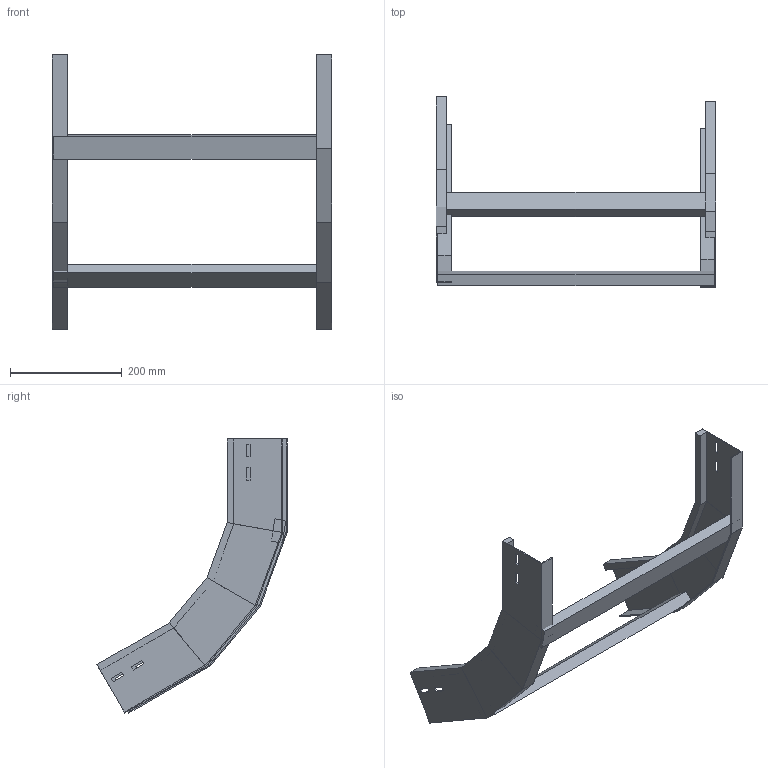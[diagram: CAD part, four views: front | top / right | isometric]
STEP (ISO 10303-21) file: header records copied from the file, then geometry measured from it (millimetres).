
FILE_DESCRIPTION (( 'STEP AP214' ), '1' );
FILE_NAME ('A2X40B3D500XX.step', '2025-04-02T09:45:23', ( '' ), ( '' ), 'SwSTEP 2.0', 'SolidWorks 2023', '' );
FILE_SCHEMA (( 'AUTOMOTIVE_DESIGN' ));
Length unit declared in the file: millimetre
Products named in the file (3): LONGH.SALITA_60°_H100_R300; TRAVERSINO_500; A2X40B3D500XX
Assembly tree (4 placements, depth 2):
  A2X40B3D500XX
    LONGH.SALITA_60°_H100_R300  x2
    TRAVERSINO_500  x2
Bounding box: 500 x 340.82 x 490.76 mm (x, y, z)
Volume: 1285970 mm3; surface area: 447688.7 mm2
Topology: 4 solids, 4 shells, 112 faces, 264 edges, 160 vertices
Faces by surface type: plane 112
Entity records: 1664 total; most frequent: CARTESIAN_POINT 275, ORIENTED_EDGE 264, DIRECTION 258, VECTOR 132, LINE 132, EDGE_CURVE 132, VERTEX_POINT 80, EDGE_LOOP 64
